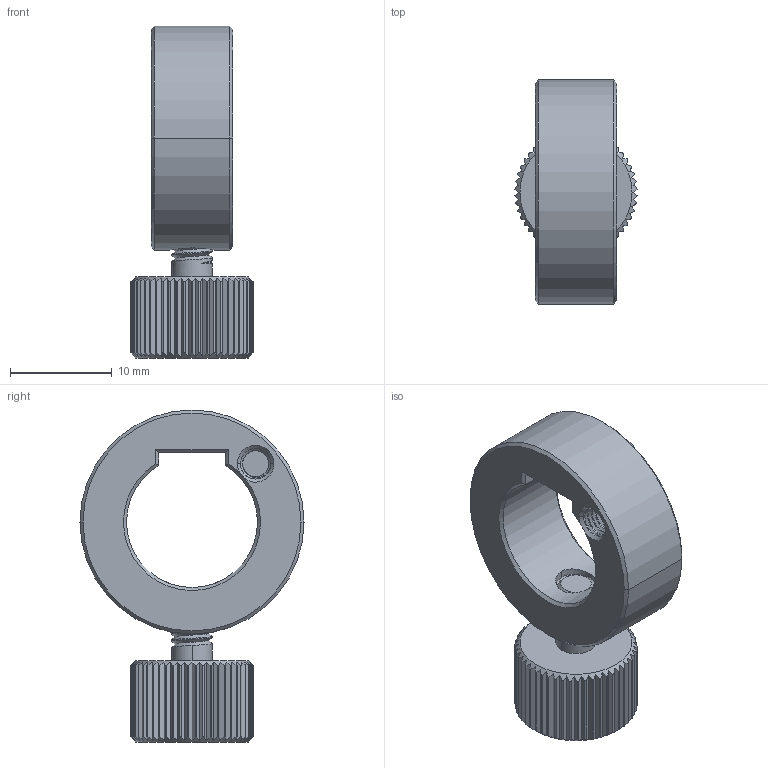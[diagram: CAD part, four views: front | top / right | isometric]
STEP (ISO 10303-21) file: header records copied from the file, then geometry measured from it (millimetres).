
FILE_DESCRIPTION((''),'2;1');
FILE_NAME('PCA-K_ASM','2020-10-30T',('Administrator'),(''),'CREO PARAMETRIC BY PTC INC, 2015290','CREO PARAMETRIC BY PTC INC, 2015290','');
FILE_SCHEMA(('CONFIG_CONTROL_DESIGN'));
Length unit declared in the file: millimetre
Products named in the file (4): PCA-K_A1; PCA-K_A2; M3X5_HS; PCA-K_ASM
Assembly tree (3 placements, depth 2):
  PCA-K_ASM
    PCA-K_A1
    PCA-K_A2
    M3X5_HS
Bounding box: 11.98 x 22 x 32.6 mm (x, y, z)
Volume: 2808.9 mm3; surface area: 2242.1 mm2
Topology: 3 solids, 3 shells, 295 faces, 807 edges, 516 vertices
Faces by surface type: plane 128, cylinder 109, bspline 30, cone 28
Entity records: 14904 total; most frequent: CARTESIAN_POINT 8033, ORIENTED_EDGE 1610, DIRECTION 1136, EDGE_CURVE 805, VERTEX_POINT 516, AXIS2_PLACEMENT_3D 425, B_SPLINE_CURVE_WITH_KNOTS 366, EDGE_LOOP 301
